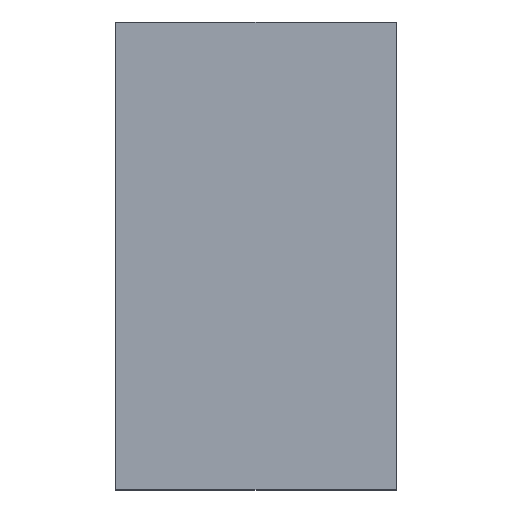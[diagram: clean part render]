
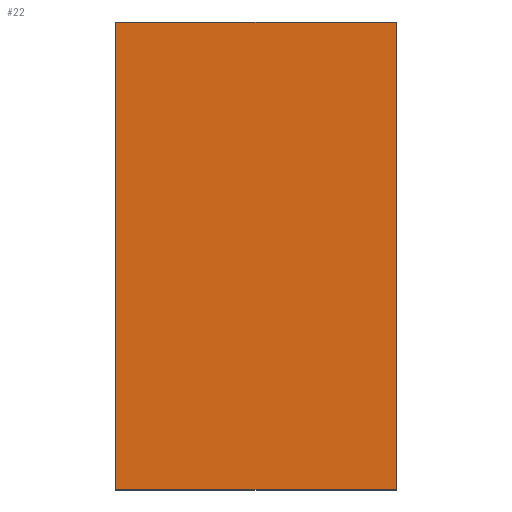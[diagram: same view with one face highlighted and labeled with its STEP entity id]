
A CAD part, top view. The second image highlights one B-rep face of the part: STEP entity #22.
In plain terms, the highlighted planar face has unit normal (0, 0, 1).
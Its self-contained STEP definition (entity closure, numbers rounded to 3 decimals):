
#22=ADVANCED_FACE('',(#32),#164,.T.);
#32=FACE_OUTER_BOUND('',#42,.T.);
#42=EDGE_LOOP('',(#73,#74,#75,#76));
#73=ORIENTED_EDGE('',*,*,#95,.F.);
#74=ORIENTED_EDGE('',*,*,#115,.T.);
#75=ORIENTED_EDGE('',*,*,#113,.F.);
#76=ORIENTED_EDGE('',*,*,#116,.T.);
#95=EDGE_CURVE('',#143,#144,#119,.T.);
#113=EDGE_CURVE('',#155,#156,#137,.T.);
#115=EDGE_CURVE('',#143,#156,#139,.T.);
#116=EDGE_CURVE('',#155,#144,#140,.T.);
#119=B_SPLINE_CURVE_WITH_KNOTS('',1,(#243,#244),.UNSPECIFIED.,.F.,.F.,(2,
2),(-1.,0.),.UNSPECIFIED.);
#137=B_SPLINE_CURVE_WITH_KNOTS('',1,(#279,#280),.UNSPECIFIED.,.F.,.F.,(2,
2),(-1.,0.),.UNSPECIFIED.);
#139=B_SPLINE_CURVE_WITH_KNOTS('',1,(#283,#284),.UNSPECIFIED.,.F.,.F.,(2,
2),(0.,1.),.UNSPECIFIED.);
#140=B_SPLINE_CURVE_WITH_KNOTS('',1,(#285,#286),.UNSPECIFIED.,.F.,.F.,(2,
2),(-1.,0.),.UNSPECIFIED.);
#143=VERTEX_POINT('',#225);
#144=VERTEX_POINT('',#226);
#155=VERTEX_POINT('',#237);
#156=VERTEX_POINT('',#238);
#164=PLANE('',#194);
#194=AXIS2_PLACEMENT_3D('',#220,#207,$);
#207=DIRECTION('',(0.,0.,1.));
#220=CARTESIAN_POINT('',(75.,125.,49.5));
#225=CARTESIAN_POINT('',(-75.,125.,49.5));
#226=CARTESIAN_POINT('',(75.,125.,49.5));
#237=CARTESIAN_POINT('',(75.,-125.,49.5));
#238=CARTESIAN_POINT('',(-75.,-125.,49.5));
#243=CARTESIAN_POINT('',(-75.,125.,49.5));
#244=CARTESIAN_POINT('',(75.,125.,49.5));
#279=CARTESIAN_POINT('',(75.,-125.,49.5));
#280=CARTESIAN_POINT('',(-75.,-125.,49.5));
#283=CARTESIAN_POINT('',(-75.,125.,49.5));
#284=CARTESIAN_POINT('',(-75.,-125.,49.5));
#285=CARTESIAN_POINT('',(75.,-125.,49.5));
#286=CARTESIAN_POINT('',(75.,125.,49.5));
